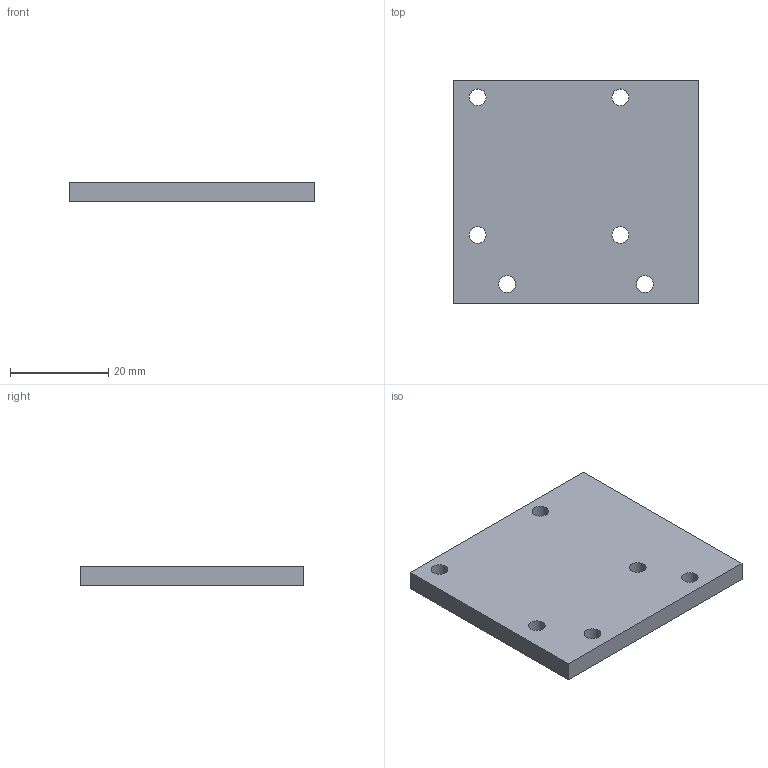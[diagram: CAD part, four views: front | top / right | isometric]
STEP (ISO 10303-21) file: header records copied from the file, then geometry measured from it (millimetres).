
FILE_DESCRIPTION(('Open CASCADE Model'),'2;1');
FILE_NAME('Open CASCADE Shape Model','2026-11-24T19:57:38',('Author'),( 'Open CASCADE'),'Open CASCADE STEP processor 7.8','Open CASCADE 7.8' ,'Unknown');
FILE_SCHEMA(('AUTOMOTIVE_DESIGN { 1 0 10303 214 1 1 1 1 }'));
Length unit declared in the file: millimetre
Products named in the file (1): Open CASCADE STEP translator 7.8 19
Bounding box: 50 x 45.5 x 4 mm (x, y, z)
Volume: 8882.1 mm3; surface area: 5461.4 mm2
Topology: 1 solids, 1 shells, 12 faces, 30 edges, 20 vertices
Faces by surface type: plane 6, cylinder 6
Full cylindrical faces by diameter (mm): 3.4 x6
Entity records: 784 total; most frequent: CARTESIAN_POINT 129, DIRECTION 122, ORIENTED_EDGE 60, LINE 60, VECTOR 60, PCURVE 60, DEFINITIONAL_REPRESENTATION 60, EDGE_CURVE 30
